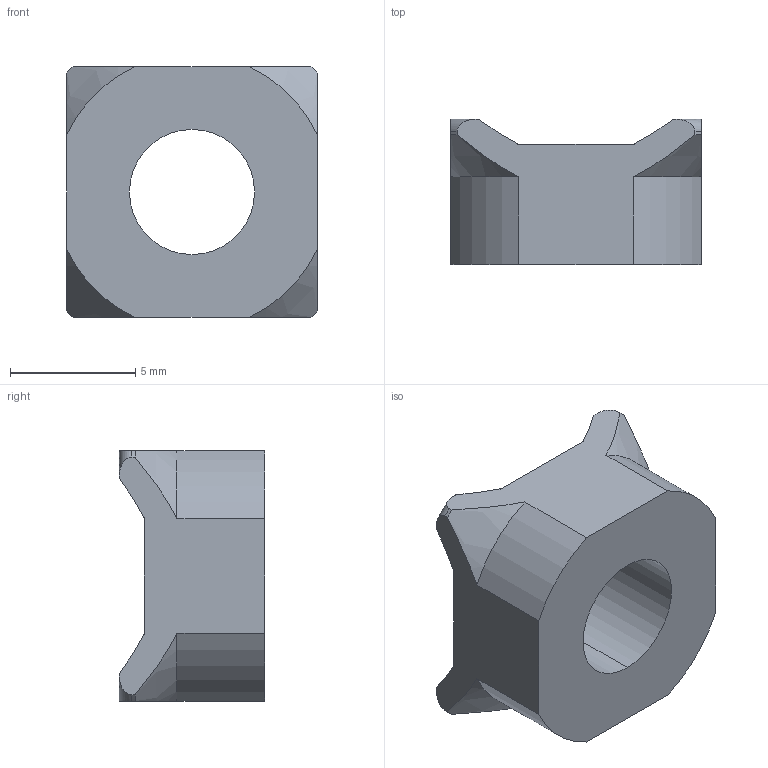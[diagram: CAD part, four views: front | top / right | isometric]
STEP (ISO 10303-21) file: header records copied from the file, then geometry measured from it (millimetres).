
FILE_DESCRIPTION (( 'STEP AP203' ), '1' );
FILE_NAME ('SN6-83030.STEP', '2018-03-15T12:21:29', ( '' ), ( '' ), 'SwSTEP 2.0', 'SolidWorks 2013', '' );
FILE_SCHEMA (( 'CONFIG_CONTROL_DESIGN' ));
Length unit declared in the file: millimetre
Products named in the file (1): SN6-83030
Bounding box: 10 x 5.8 x 10 mm (x, y, z)
Volume: 345.9 mm3; surface area: 413.2 mm2
Topology: 1 solids, 1 shells, 32 faces, 90 edges, 60 vertices
Faces by surface type: cylinder 10, plane 10, cone 8, torus 4
Entity records: 1215 total; most frequent: CARTESIAN_POINT 319, ORIENTED_EDGE 180, DIRECTION 164, EDGE_CURVE 90, AXIS2_PLACEMENT_3D 65, VERTEX_POINT 60, VECTOR 34, LINE 34
